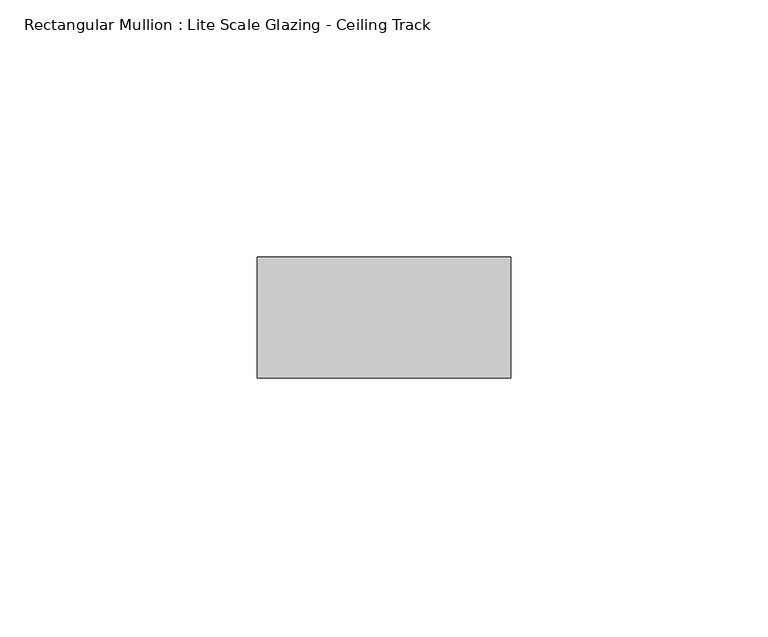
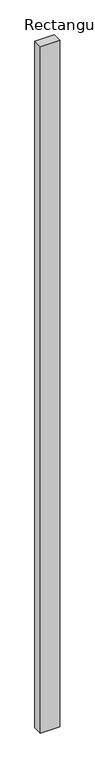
"""IFC4 building model written with IfcOpenShell, lengths in millimetres: member geometry, Rectangular Mullion : Lite Scale Glazing - Ceiling Track."""

from ifc_helpers import new_model, si_unit, frame, origin, place, context, project, spatial, polyline, outline, extrude, source, transform, mapped, element, save


def rectangular_mullion_lite_scale_glazing_ceiling_track_bc57fc9f(model_context):
    return source(origin(), model_context, "Body", "SweptSolid", [
        extrude(outline(polyline([(-49.276, -11.7474999), (-49.276, 11.7474999), (0.0, 11.7474999), (0.0, -11.7474999), (-49.276, -11.7474999)])), frame((0.0, 0.0, -1828.8), z_axis=(0.0, 0.0, 1.0), x_axis=(1.0, 0.0, 0.0)), (0.0, 0.0, 1.0), 1828.8),
    ])


if __name__ == "__main__":
    model = new_model("IFC4")
    model_context = context("Model", 3, world=origin())
    ifc_project = project(units=[si_unit("LENGTHUNIT", "METRE", prefix="MILLI")], contexts=[model_context])
    site = spatial("IfcSite", under=ifc_project)
    building = spatial("IfcBuilding", under=site)
    placement = place(None, origin())
    rectangular_mullion_lite_scale_glazing_ceiling_track_shape = rectangular_mullion_lite_scale_glazing_ceiling_track_bc57fc9f(model_context)
    element("IfcMember", 1, ObjectType="Rectangular Mullion : Lite Scale Glazing - Ceiling Track", at=placement, inside=building, context=model_context, shape_type="MappedRepresentation", body=[
        mapped(rectangular_mullion_lite_scale_glazing_ceiling_track_shape, transform((0.0, 0.0, 0.0), x_axis=(1.0, 0.0, 0.0), y_axis=(0.0, 1.0, 0.0), z_axis=(0.0, 0.0, 1.0))),
    ])
    save(model, "model.ifc")
